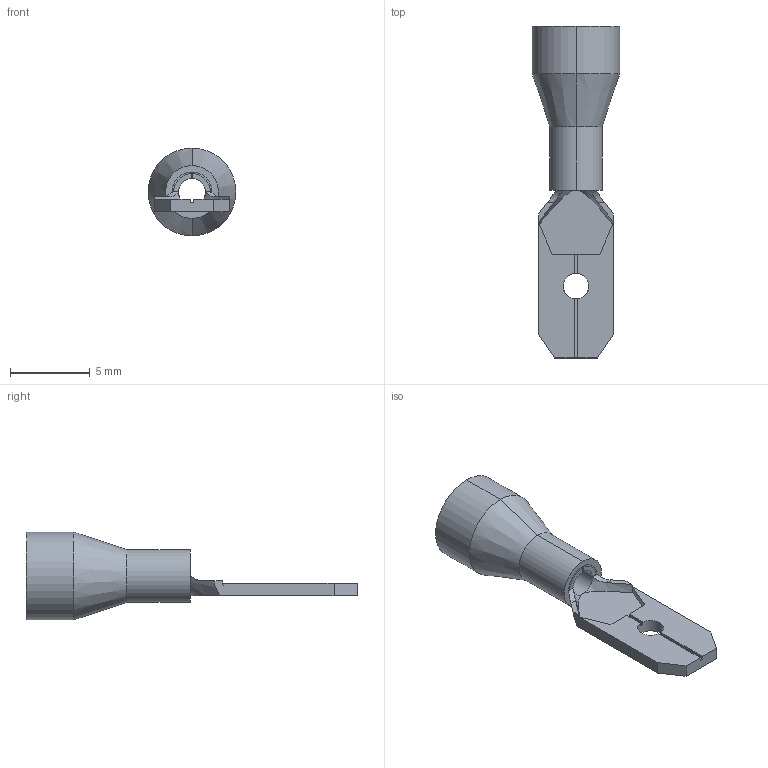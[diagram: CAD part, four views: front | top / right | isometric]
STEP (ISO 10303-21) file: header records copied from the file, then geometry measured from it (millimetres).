
FILE_DESCRIPTION (( 'STEP AP214' ), '1' );
FILE_NAME ('278088 OptiKit S-Pp-PVC-1,25-5-0,8.STEP', '2020-02-19T11:12:42', ( '' ), ( '' ), 'SwSTEP 2.0', 'SolidWorks 2018', '' );
FILE_SCHEMA (( 'AUTOMOTIVE_DESIGN' ));
Length unit declared in the file: millimetre
Products named in the file (3): Îïëåòêà 1111; 朽琥屐 酗蕊 1,25-5-0,8; 278088 OptiKit S-Pp-PVC-1,25-5-0,8
Assembly tree (2 placements, depth 2):
  278088 OptiKit S-Pp-PVC-1,25-5-0,8
    朽琥屐 酗蕊 1,25-5-0,8
    Îïëåòêà 1111
Bounding box: 5.5 x 20.8 x 5.5 mm (x, y, z)
Volume: 108.5 mm3; surface area: 451.6 mm2
Topology: 2 solids, 2 shells, 49 faces, 124 edges, 78 vertices
Faces by surface type: plane 27, cylinder 12, cone 8, bspline 2
Entity records: 1690 total; most frequent: CARTESIAN_POINT 414, ORIENTED_EDGE 248, DIRECTION 242, EDGE_CURVE 124, AXIS2_PLACEMENT_3D 86, VERTEX_POINT 78, LINE 70, VECTOR 70
